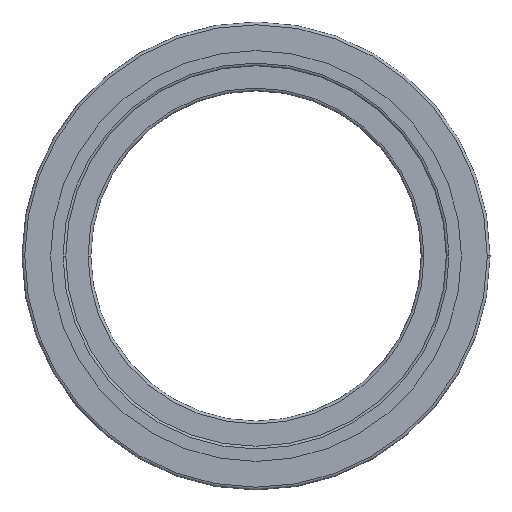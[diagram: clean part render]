
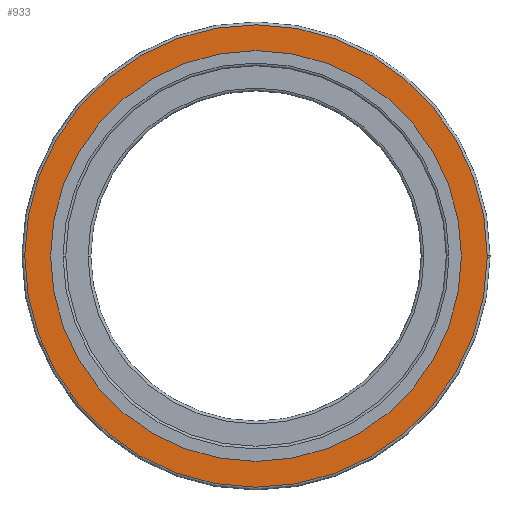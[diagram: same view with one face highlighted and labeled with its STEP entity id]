
A CAD part, front view. The second image highlights one B-rep face of the part: STEP entity #933.
In plain terms, the highlighted planar face has unit normal (0, -1, 0).
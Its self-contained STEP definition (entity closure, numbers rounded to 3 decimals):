
#413=EDGE_CURVE('',#481,#743,#1116,.T.);
#481=VERTEX_POINT('',#1191);
#483=EDGE_CURVE('',#669,#481,#1193,.T.);
#669=VERTEX_POINT('',#1395);
#731=EDGE_CURVE('',#897,#669,#1463,.T.);
#743=VERTEX_POINT('',#1478);
#785=EDGE_CURVE('',#743,#897,#1525,.T.);
#897=VERTEX_POINT('',#1648);
#905=VERTEX_POINT('',#1658);
#933=ADVANCED_FACE('',(#1689,#1690),#1691,.F.);
#987=VERTEX_POINT('',#1755);
#995=EDGE_CURVE('',#987,#905,#1764,.T.);
#1037=EDGE_CURVE('',#905,#987,#1811,.T.);
#1116=CIRCLE('',#1896,84.0);
#1191=CARTESIAN_POINT('',(84.0,0.0,0.0));
#1193=CIRCLE('',#1995,84.0);
#1395=CARTESIAN_POINT('',(83.998,0.0,-0.521));
#1463=CIRCLE('',#2331,84.0);
#1478=CARTESIAN_POINT('',(-83.998,0.0,0.521));
#1525=CIRCLE('',#2403,84.0);
#1648=CARTESIAN_POINT('',(-84.0,0.0,0.));
#1658=CARTESIAN_POINT('',(-74.6,0.0,0.0));
#1689=FACE_OUTER_BOUND('',#2609,.T.);
#1690=FACE_BOUND('',#2610,.T.);
#1691=PLANE('',#2611);
#1755=CARTESIAN_POINT('',(74.6,0.0,0.0));
#1764=CIRCLE('',#2694,74.6);
#1811=CIRCLE('',#2753,74.6);
#1896=AXIS2_PLACEMENT_3D('',#2835,#2836,#2837);
#1995=AXIS2_PLACEMENT_3D('',#2938,#2939,#2940);
#2331=AXIS2_PLACEMENT_3D('',#3283,#3284,#3285);
#2403=AXIS2_PLACEMENT_3D('',#3373,#3374,#3375);
#2609=EDGE_LOOP('',(#3608,#3609,#3610,#3611));
#2610=EDGE_LOOP('',(#3612,#3613));
#2611=AXIS2_PLACEMENT_3D('',#3614,#3615,#3616);
#2694=AXIS2_PLACEMENT_3D('',#3728,#3729,#3730);
#2753=AXIS2_PLACEMENT_3D('',#3798,#3799,#3800);
#2835=CARTESIAN_POINT('',(0.0,0.0,0.0));
#2836=DIRECTION('',(0.0,-1.0,0.0));
#2837=DIRECTION('',(1.0,0.0,0.0));
#2938=CARTESIAN_POINT('',(0.0,0.0,0.0));
#2939=DIRECTION('',(0.0,-1.0,0.0));
#2940=DIRECTION('',(-1.0,0.0,0.0));
#3283=CARTESIAN_POINT('',(0.0,0.0,0.0));
#3284=DIRECTION('',(0.0,-1.0,0.0));
#3285=DIRECTION('',(-1.0,0.0,0.0));
#3373=CARTESIAN_POINT('',(0.0,0.0,0.0));
#3374=DIRECTION('',(0.0,-1.0,0.0));
#3375=DIRECTION('',(1.0,0.0,0.0));
#3608=ORIENTED_EDGE('',*,*,#413,.T.);
#3609=ORIENTED_EDGE('',*,*,#785,.T.);
#3610=ORIENTED_EDGE('',*,*,#731,.T.);
#3611=ORIENTED_EDGE('',*,*,#483,.T.);
#3612=ORIENTED_EDGE('',*,*,#1037,.F.);
#3613=ORIENTED_EDGE('',*,*,#995,.F.);
#3614=CARTESIAN_POINT('',(0.0,0.0,0.0));
#3615=DIRECTION('',(0.0,1.0,0.0));
#3616=DIRECTION('',(1.0,0.0,-0.0));
#3728=CARTESIAN_POINT('',(0.0,0.0,0.0));
#3729=DIRECTION('',(0.0,-1.0,0.0));
#3730=DIRECTION('',(1.0,0.0,0.0));
#3798=CARTESIAN_POINT('',(0.0,0.0,0.0));
#3799=DIRECTION('',(0.0,-1.0,0.0));
#3800=DIRECTION('',(-1.0,0.0,0.0));
